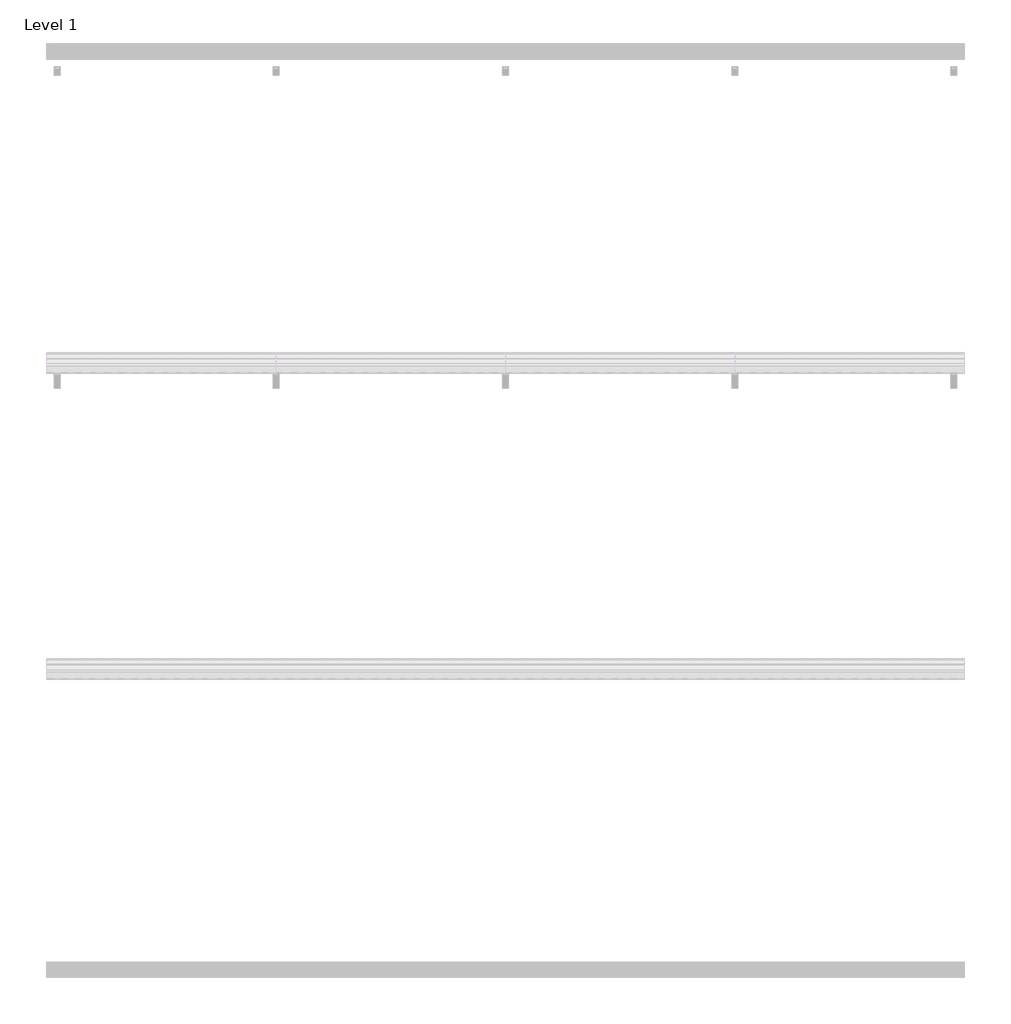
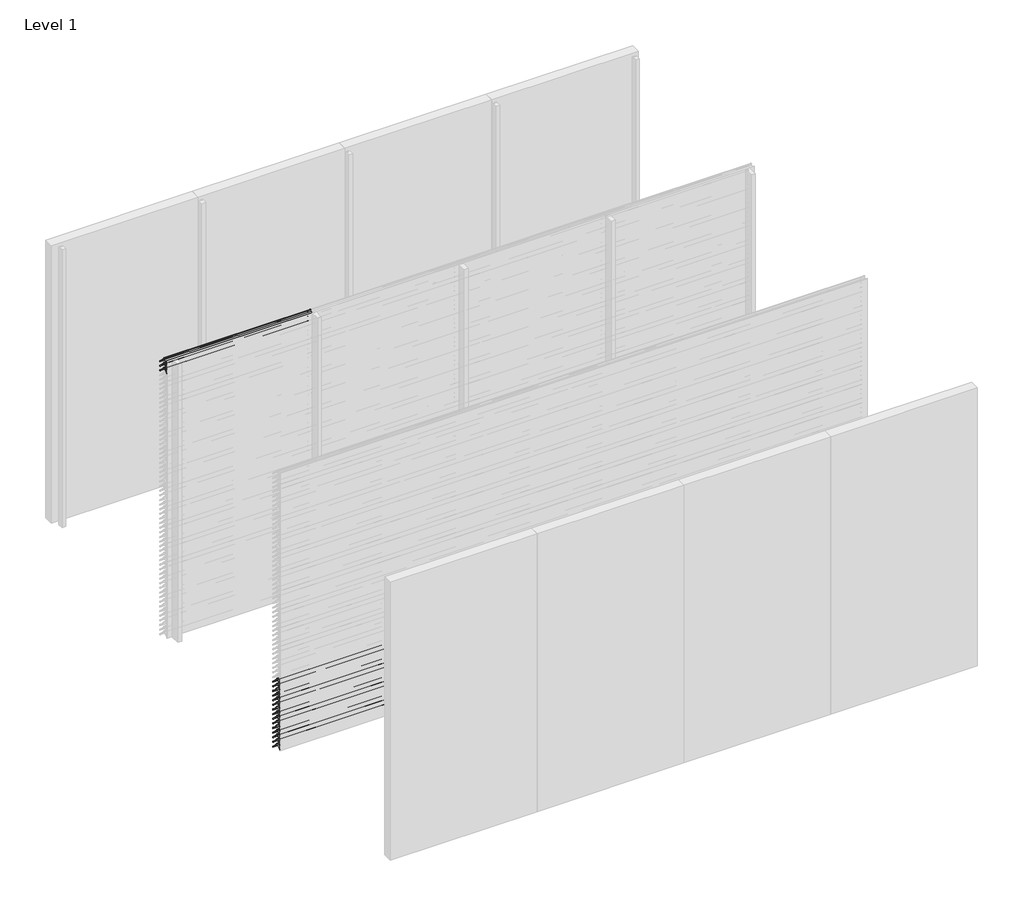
# One storey, part 57 of 173: 18 proxies.
"""IFC4 building model written with IfcOpenShell, lengths in millimetres."""

from ifc_helpers import new_model, si_unit, point, frame, frame_2d, origin, place, context, project, spatial, polyline, circle_curve, trimmed, segment, composite_curve, outline, extrude, element, save

model = new_model("IFC4")

# Units and contexts
model_context = context("Model", 3, world=origin())
ifc_project = project(units=[si_unit("LENGTHUNIT", "METRE", prefix="MILLI")], contexts=[model_context])

# Site, building, storey
site = spatial("IfcSite", under=ifc_project)
building = spatial("IfcBuilding", under=site)
storey = spatial("IfcBuildingStorey", under=building, Name="Level 1", Elevation=0.0)

# Proxies
placement = place(None, origin())
element("IfcBuildingElementProxy", 1, Name="Wall Sweeps", at=placement, inside=storey, context=model_context, shape_type="SweptSolid", body=[
    extrude(outline(composite_curve([segment(polyline([(-35998.0, 2959.1474905), (-35998.0, 2961.6227417)]), True, "CONTINUOUS"), segment(trimmed(circle_curve(frame_2d((-35951.2682172, 2916.2200208)), 65.1557103), [point((-35998.0, 2961.6227417))], [point((-35954.4014323, 2981.3003524))], False, "CARTESIAN"), True, "CONTINUOUS"), segment(polyline([(-35954.4014323, 2981.3003524), (-35934.8315836, 2981.3003524)]), True, "CONTINUOUS"), segment(trimmed(circle_curve(frame_2d((-35732.7329489, 3128.5533172)), 250.0545817), [point((-35934.8315836, 2981.3003524))], [point((-35941.4452143, 2990.8344583))], False, "CARTESIAN"), True, "CONTINUOUS"), segment(trimmed(circle_curve(frame_2d((-35953.2981792, 2985.1737835)), 13.1352966), [point((-35941.4452143, 2990.8344583))], [point((-35953.8171475, 2998.298824))], True, "CARTESIAN"), True, "CONTINUOUS"), segment(polyline([(-35953.8171475, 2998.298824), (-35953.8171475, 3000.0)]), True, "CONTINUOUS"), segment(trimmed(circle_curve(frame_2d((-35953.2981792, 2985.1737835)), 14.8352966), [point((-35953.8171475, 3000.0))], [point((-35939.9637661, 2991.6760487))], False, "CARTESIAN"), True, "CONTINUOUS"), segment(trimmed(circle_curve(frame_2d((-35732.7329489, 3128.5533172)), 248.3545817), [point((-35939.9637661, 2991.6760487))], [point((-35873.8787895, 2924.2059416))], True, "CARTESIAN"), True, "CONTINUOUS"), segment(trimmed(circle_curve(frame_2d((-35883.8147537, 2911.6649442)), 16.0), [point((-35873.8787895, 2924.2059416))], [point((-35867.8648347, 2910.4))], False, "CARTESIAN"), True, "CONTINUOUS"), segment(polyline([(-35867.8648347, 2910.4), (-35869.6712069, 2910.4)]), True, "CONTINUOUS"), segment(trimmed(circle_curve(frame_2d((-35883.8147537, 2911.6649442)), 14.2), [point((-35869.6712069, 2910.4))], [point((-35874.9518628, 2922.7594998))], True, "CARTESIAN"), True, "CONTINUOUS"), segment(trimmed(circle_curve(frame_2d((-35732.7329489, 3128.5533172)), 250.1545817), [point((-35874.9518628, 2922.7594998))], [point((-35933.7064024, 2979.6003524))], False, "CARTESIAN"), True, "CONTINUOUS"), segment(polyline([(-35933.7064024, 2979.6003524), (-35954.3602632, 2979.6003524)]), True, "CONTINUOUS"), segment(trimmed(circle_curve(frame_2d((-35951.2682172, 2916.2200208)), 63.4557103), [point((-35954.3602632, 2979.6003524))], [point((-35998.0, 2959.1474905))], True, "CARTESIAN"), True, "CONTINUOUS")], self_intersect=False)), frame((0.0, 0.0, 0.0), z_axis=(1.0, 0.0, 0.0), x_axis=(0.0, 1.0, 0.0)), (0.0, 0.0, 1.0), 1500.0),
])
element("IfcBuildingElementProxy", 2, Name="Wall Sweeps", at=placement, inside=storey, context=model_context, shape_type="SweptSolid", body=[
    extrude(outline(composite_curve([segment(polyline([(-35998.0, 2909.1474905), (-35998.0, 2911.6227417)]), True, "CONTINUOUS"), segment(trimmed(circle_curve(frame_2d((-35951.2682172, 2866.2200208)), 65.1557103), [point((-35998.0, 2911.6227417))], [point((-35954.4014323, 2931.3003524))], False, "CARTESIAN"), True, "CONTINUOUS"), segment(polyline([(-35954.4014323, 2931.3003524), (-35934.8315836, 2931.3003524)]), True, "CONTINUOUS"), segment(trimmed(circle_curve(frame_2d((-35732.7329489, 3078.5533172)), 250.0545817), [point((-35934.8315836, 2931.3003524))], [point((-35941.4452143, 2940.8344583))], False, "CARTESIAN"), True, "CONTINUOUS"), segment(trimmed(circle_curve(frame_2d((-35953.2981792, 2935.1737835)), 13.1352966), [point((-35941.4452143, 2940.8344583))], [point((-35953.8171475, 2948.298824))], True, "CARTESIAN"), True, "CONTINUOUS"), segment(polyline([(-35953.8171475, 2948.298824), (-35953.8171475, 2950.0)]), True, "CONTINUOUS"), segment(trimmed(circle_curve(frame_2d((-35953.2981792, 2935.1737835)), 14.8352966), [point((-35953.8171475, 2950.0))], [point((-35939.9637661, 2941.6760487))], False, "CARTESIAN"), True, "CONTINUOUS"), segment(trimmed(circle_curve(frame_2d((-35732.7329489, 3078.5533172)), 248.3545817), [point((-35939.9637661, 2941.6760487))], [point((-35873.8787895, 2874.2059416))], True, "CARTESIAN"), True, "CONTINUOUS"), segment(trimmed(circle_curve(frame_2d((-35883.8147537, 2861.6649442)), 16.0), [point((-35873.8787895, 2874.2059416))], [point((-35867.8648347, 2860.4))], False, "CARTESIAN"), True, "CONTINUOUS"), segment(polyline([(-35867.8648347, 2860.4), (-35869.6712069, 2860.4)]), True, "CONTINUOUS"), segment(trimmed(circle_curve(frame_2d((-35883.8147537, 2861.6649442)), 14.2), [point((-35869.6712069, 2860.4))], [point((-35874.9518628, 2872.7594998))], True, "CARTESIAN"), True, "CONTINUOUS"), segment(trimmed(circle_curve(frame_2d((-35732.7329489, 3078.5533172)), 250.1545817), [point((-35874.9518628, 2872.7594998))], [point((-35933.7064024, 2929.6003524))], False, "CARTESIAN"), True, "CONTINUOUS"), segment(polyline([(-35933.7064024, 2929.6003524), (-35954.3602632, 2929.6003524)]), True, "CONTINUOUS"), segment(trimmed(circle_curve(frame_2d((-35951.2682172, 2866.2200208)), 63.4557103), [point((-35954.3602632, 2929.6003524))], [point((-35998.0, 2909.1474905))], True, "CARTESIAN"), True, "CONTINUOUS")], self_intersect=False)), frame((0.0, 0.0, 0.0), z_axis=(1.0, 0.0, 0.0), x_axis=(0.0, 1.0, 0.0)), (0.0, 0.0, 1.0), 1500.0),
])
element("IfcBuildingElementProxy", 3, Name="Wall Sweeps", at=placement, inside=storey, context=model_context, shape_type="SweptSolid", body=[
    extrude(outline(composite_curve([segment(polyline([(-35998.0, 2859.1474905), (-35998.0, 2861.6227417)]), True, "CONTINUOUS"), segment(trimmed(circle_curve(frame_2d((-35951.2682172, 2816.2200208)), 65.1557103), [point((-35998.0, 2861.6227417))], [point((-35954.4014323, 2881.3003524))], False, "CARTESIAN"), True, "CONTINUOUS"), segment(polyline([(-35954.4014323, 2881.3003524), (-35934.8315836, 2881.3003524)]), True, "CONTINUOUS"), segment(trimmed(circle_curve(frame_2d((-35732.7329489, 3028.5533172)), 250.0545817), [point((-35934.8315836, 2881.3003524))], [point((-35941.4452143, 2890.8344583))], False, "CARTESIAN"), True, "CONTINUOUS"), segment(trimmed(circle_curve(frame_2d((-35953.2981792, 2885.1737835)), 13.1352966), [point((-35941.4452143, 2890.8344583))], [point((-35953.8171475, 2898.298824))], True, "CARTESIAN"), True, "CONTINUOUS"), segment(polyline([(-35953.8171475, 2898.298824), (-35953.8171475, 2900.0)]), True, "CONTINUOUS"), segment(trimmed(circle_curve(frame_2d((-35953.2981792, 2885.1737835)), 14.8352966), [point((-35953.8171475, 2900.0))], [point((-35939.9637661, 2891.6760487))], False, "CARTESIAN"), True, "CONTINUOUS"), segment(trimmed(circle_curve(frame_2d((-35732.7329489, 3028.5533172)), 248.3545817), [point((-35939.9637661, 2891.6760487))], [point((-35873.8787895, 2824.2059416))], True, "CARTESIAN"), True, "CONTINUOUS"), segment(trimmed(circle_curve(frame_2d((-35883.8147537, 2811.6649442)), 16.0), [point((-35873.8787895, 2824.2059416))], [point((-35867.8648347, 2810.4))], False, "CARTESIAN"), True, "CONTINUOUS"), segment(polyline([(-35867.8648347, 2810.4), (-35869.6712069, 2810.4)]), True, "CONTINUOUS"), segment(trimmed(circle_curve(frame_2d((-35883.8147537, 2811.6649442)), 14.2), [point((-35869.6712069, 2810.4))], [point((-35874.9518628, 2822.7594998))], True, "CARTESIAN"), True, "CONTINUOUS"), segment(trimmed(circle_curve(frame_2d((-35732.7329489, 3028.5533172)), 250.1545817), [point((-35874.9518628, 2822.7594998))], [point((-35933.7064024, 2879.6003524))], False, "CARTESIAN"), True, "CONTINUOUS"), segment(polyline([(-35933.7064024, 2879.6003524), (-35954.3602632, 2879.6003524)]), True, "CONTINUOUS"), segment(trimmed(circle_curve(frame_2d((-35951.2682172, 2816.2200208)), 63.4557103), [point((-35954.3602632, 2879.6003524))], [point((-35998.0, 2859.1474905))], True, "CARTESIAN"), True, "CONTINUOUS")], self_intersect=False)), frame((0.0, 0.0, 0.0), z_axis=(1.0, 0.0, 0.0), x_axis=(0.0, 1.0, 0.0)), (0.0, 0.0, 1.0), 1500.0),
])
element("IfcBuildingElementProxy", 4, Name="Wall Sweeps", at=placement, inside=storey, context=model_context, shape_type="SweptSolid", body=[
    extrude(outline(composite_curve([segment(polyline([(-37998.0, 709.1474905), (-37998.0, 711.6227417)]), True, "CONTINUOUS"), segment(trimmed(circle_curve(frame_2d((-37951.2682172, 666.2200208)), 65.1557103), [point((-37998.0, 711.6227417))], [point((-37954.4014323, 731.3003524))], False, "CARTESIAN"), True, "CONTINUOUS"), segment(polyline([(-37954.4014323, 731.3003524), (-37934.8315836, 731.3003524)]), True, "CONTINUOUS"), segment(trimmed(circle_curve(frame_2d((-37732.7329489, 878.5533172)), 250.0545817), [point((-37934.8315836, 731.3003524))], [point((-37941.4452143, 740.8344583))], False, "CARTESIAN"), True, "CONTINUOUS"), segment(trimmed(circle_curve(frame_2d((-37953.2981792, 735.1737835)), 13.1352966), [point((-37941.4452143, 740.8344583))], [point((-37953.8171475, 748.298824))], True, "CARTESIAN"), True, "CONTINUOUS"), segment(polyline([(-37953.8171475, 748.298824), (-37953.8171475, 750.0)]), True, "CONTINUOUS"), segment(trimmed(circle_curve(frame_2d((-37953.2981792, 735.1737835)), 14.8352966), [point((-37953.8171475, 750.0))], [point((-37939.9637661, 741.6760487))], False, "CARTESIAN"), True, "CONTINUOUS"), segment(trimmed(circle_curve(frame_2d((-37732.7329489, 878.5533172)), 248.3545817), [point((-37939.9637661, 741.6760487))], [point((-37873.8787895, 674.2059416))], True, "CARTESIAN"), True, "CONTINUOUS"), segment(trimmed(circle_curve(frame_2d((-37883.8147537, 661.6649442)), 16.0), [point((-37873.8787895, 674.2059416))], [point((-37867.8648347, 660.4))], False, "CARTESIAN"), True, "CONTINUOUS"), segment(polyline([(-37867.8648347, 660.4), (-37869.6712069, 660.4)]), True, "CONTINUOUS"), segment(trimmed(circle_curve(frame_2d((-37883.8147537, 661.6649442)), 14.2), [point((-37869.6712069, 660.4))], [point((-37874.9518628, 672.7594998))], True, "CARTESIAN"), True, "CONTINUOUS"), segment(trimmed(circle_curve(frame_2d((-37732.7329489, 878.5533172)), 250.1545817), [point((-37874.9518628, 672.7594998))], [point((-37933.7064024, 729.6003524))], False, "CARTESIAN"), True, "CONTINUOUS"), segment(polyline([(-37933.7064024, 729.6003524), (-37954.3602632, 729.6003524)]), True, "CONTINUOUS"), segment(trimmed(circle_curve(frame_2d((-37951.2682172, 666.2200208)), 63.4557103), [point((-37954.3602632, 729.6003524))], [point((-37998.0, 709.1474905))], True, "CARTESIAN"), True, "CONTINUOUS")], self_intersect=False)), frame((0.0, 0.0, 0.0), z_axis=(1.0, 0.0, 0.0), x_axis=(0.0, 1.0, 0.0)), (0.0, 0.0, 1.0), 6000.0),
])
element("IfcBuildingElementProxy", 5, Name="Wall Sweeps", at=placement, inside=storey, context=model_context, shape_type="SweptSolid", body=[
    extrude(outline(composite_curve([segment(polyline([(-37998.0, 659.1474905), (-37998.0, 661.6227417)]), True, "CONTINUOUS"), segment(trimmed(circle_curve(frame_2d((-37951.2682172, 616.2200208)), 65.1557103), [point((-37998.0, 661.6227417))], [point((-37954.4014323, 681.3003524))], False, "CARTESIAN"), True, "CONTINUOUS"), segment(polyline([(-37954.4014323, 681.3003524), (-37934.8315836, 681.3003524)]), True, "CONTINUOUS"), segment(trimmed(circle_curve(frame_2d((-37732.7329489, 828.5533172)), 250.0545817), [point((-37934.8315836, 681.3003524))], [point((-37941.4452143, 690.8344583))], False, "CARTESIAN"), True, "CONTINUOUS"), segment(trimmed(circle_curve(frame_2d((-37953.2981792, 685.1737835)), 13.1352966), [point((-37941.4452143, 690.8344583))], [point((-37953.8171475, 698.298824))], True, "CARTESIAN"), True, "CONTINUOUS"), segment(polyline([(-37953.8171475, 698.298824), (-37953.8171475, 700.0)]), True, "CONTINUOUS"), segment(trimmed(circle_curve(frame_2d((-37953.2981792, 685.1737835)), 14.8352966), [point((-37953.8171475, 700.0))], [point((-37939.9637661, 691.6760487))], False, "CARTESIAN"), True, "CONTINUOUS"), segment(trimmed(circle_curve(frame_2d((-37732.7329489, 828.5533172)), 248.3545817), [point((-37939.9637661, 691.6760487))], [point((-37873.8787895, 624.2059416))], True, "CARTESIAN"), True, "CONTINUOUS"), segment(trimmed(circle_curve(frame_2d((-37883.8147537, 611.6649442)), 16.0), [point((-37873.8787895, 624.2059416))], [point((-37867.8648347, 610.4))], False, "CARTESIAN"), True, "CONTINUOUS"), segment(polyline([(-37867.8648347, 610.4), (-37869.6712069, 610.4)]), True, "CONTINUOUS"), segment(trimmed(circle_curve(frame_2d((-37883.8147537, 611.6649442)), 14.2), [point((-37869.6712069, 610.4))], [point((-37874.9518628, 622.7594998))], True, "CARTESIAN"), True, "CONTINUOUS"), segment(trimmed(circle_curve(frame_2d((-37732.7329489, 828.5533172)), 250.1545817), [point((-37874.9518628, 622.7594998))], [point((-37933.7064024, 679.6003524))], False, "CARTESIAN"), True, "CONTINUOUS"), segment(polyline([(-37933.7064024, 679.6003524), (-37954.3602632, 679.6003524)]), True, "CONTINUOUS"), segment(trimmed(circle_curve(frame_2d((-37951.2682172, 616.2200208)), 63.4557103), [point((-37954.3602632, 679.6003524))], [point((-37998.0, 659.1474905))], True, "CARTESIAN"), True, "CONTINUOUS")], self_intersect=False)), frame((0.0, 0.0, 0.0), z_axis=(1.0, 0.0, 0.0), x_axis=(0.0, 1.0, 0.0)), (0.0, 0.0, 1.0), 6000.0),
])
element("IfcBuildingElementProxy", 6, Name="Wall Sweeps", at=placement, inside=storey, context=model_context, shape_type="SweptSolid", body=[
    extrude(outline(composite_curve([segment(polyline([(-37998.0, 609.1474905), (-37998.0, 611.6227417)]), True, "CONTINUOUS"), segment(trimmed(circle_curve(frame_2d((-37951.2682172, 566.2200208)), 65.1557103), [point((-37998.0, 611.6227417))], [point((-37954.4014323, 631.3003524))], False, "CARTESIAN"), True, "CONTINUOUS"), segment(polyline([(-37954.4014323, 631.3003524), (-37934.8315836, 631.3003524)]), True, "CONTINUOUS"), segment(trimmed(circle_curve(frame_2d((-37732.7329489, 778.5533172)), 250.0545817), [point((-37934.8315836, 631.3003524))], [point((-37941.4452143, 640.8344583))], False, "CARTESIAN"), True, "CONTINUOUS"), segment(trimmed(circle_curve(frame_2d((-37953.2981792, 635.1737835)), 13.1352966), [point((-37941.4452143, 640.8344583))], [point((-37953.8171475, 648.298824))], True, "CARTESIAN"), True, "CONTINUOUS"), segment(polyline([(-37953.8171475, 648.298824), (-37953.8171475, 650.0)]), True, "CONTINUOUS"), segment(trimmed(circle_curve(frame_2d((-37953.2981792, 635.1737835)), 14.8352966), [point((-37953.8171475, 650.0))], [point((-37939.9637661, 641.6760487))], False, "CARTESIAN"), True, "CONTINUOUS"), segment(trimmed(circle_curve(frame_2d((-37732.7329489, 778.5533172)), 248.3545817), [point((-37939.9637661, 641.6760487))], [point((-37873.8787895, 574.2059416))], True, "CARTESIAN"), True, "CONTINUOUS"), segment(trimmed(circle_curve(frame_2d((-37883.8147537, 561.6649442)), 16.0), [point((-37873.8787895, 574.2059416))], [point((-37867.8648347, 560.4))], False, "CARTESIAN"), True, "CONTINUOUS"), segment(polyline([(-37867.8648347, 560.4), (-37869.6712069, 560.4)]), True, "CONTINUOUS"), segment(trimmed(circle_curve(frame_2d((-37883.8147537, 561.6649442)), 14.2), [point((-37869.6712069, 560.4))], [point((-37874.9518628, 572.7594998))], True, "CARTESIAN"), True, "CONTINUOUS"), segment(trimmed(circle_curve(frame_2d((-37732.7329489, 778.5533172)), 250.1545817), [point((-37874.9518628, 572.7594998))], [point((-37933.7064024, 629.6003524))], False, "CARTESIAN"), True, "CONTINUOUS"), segment(polyline([(-37933.7064024, 629.6003524), (-37954.3602632, 629.6003524)]), True, "CONTINUOUS"), segment(trimmed(circle_curve(frame_2d((-37951.2682172, 566.2200208)), 63.4557103), [point((-37954.3602632, 629.6003524))], [point((-37998.0, 609.1474905))], True, "CARTESIAN"), True, "CONTINUOUS")], self_intersect=False)), frame((0.0, 0.0, 0.0), z_axis=(1.0, 0.0, 0.0), x_axis=(0.0, 1.0, 0.0)), (0.0, 0.0, 1.0), 6000.0),
])
element("IfcBuildingElementProxy", 7, Name="Wall Sweeps", at=placement, inside=storey, context=model_context, shape_type="SweptSolid", body=[
    extrude(outline(composite_curve([segment(polyline([(-37998.0, 559.1474905), (-37998.0, 561.6227417)]), True, "CONTINUOUS"), segment(trimmed(circle_curve(frame_2d((-37951.2682172, 516.2200208)), 65.1557103), [point((-37998.0, 561.6227417))], [point((-37954.4014323, 581.3003524))], False, "CARTESIAN"), True, "CONTINUOUS"), segment(polyline([(-37954.4014323, 581.3003524), (-37934.8315836, 581.3003524)]), True, "CONTINUOUS"), segment(trimmed(circle_curve(frame_2d((-37732.7329489, 728.5533172)), 250.0545817), [point((-37934.8315836, 581.3003524))], [point((-37941.4452143, 590.8344583))], False, "CARTESIAN"), True, "CONTINUOUS"), segment(trimmed(circle_curve(frame_2d((-37953.2981792, 585.1737835)), 13.1352966), [point((-37941.4452143, 590.8344583))], [point((-37953.8171475, 598.298824))], True, "CARTESIAN"), True, "CONTINUOUS"), segment(polyline([(-37953.8171475, 598.298824), (-37953.8171475, 600.0)]), True, "CONTINUOUS"), segment(trimmed(circle_curve(frame_2d((-37953.2981792, 585.1737835)), 14.8352966), [point((-37953.8171475, 600.0))], [point((-37939.9637661, 591.6760487))], False, "CARTESIAN"), True, "CONTINUOUS"), segment(trimmed(circle_curve(frame_2d((-37732.7329489, 728.5533172)), 248.3545817), [point((-37939.9637661, 591.6760487))], [point((-37873.8787895, 524.2059416))], True, "CARTESIAN"), True, "CONTINUOUS"), segment(trimmed(circle_curve(frame_2d((-37883.8147537, 511.6649442)), 16.0), [point((-37873.8787895, 524.2059416))], [point((-37867.8648347, 510.4))], False, "CARTESIAN"), True, "CONTINUOUS"), segment(polyline([(-37867.8648347, 510.4), (-37869.6712069, 510.4)]), True, "CONTINUOUS"), segment(trimmed(circle_curve(frame_2d((-37883.8147537, 511.6649442)), 14.2), [point((-37869.6712069, 510.4))], [point((-37874.9518628, 522.7594998))], True, "CARTESIAN"), True, "CONTINUOUS"), segment(trimmed(circle_curve(frame_2d((-37732.7329489, 728.5533172)), 250.1545817), [point((-37874.9518628, 522.7594998))], [point((-37933.7064024, 579.6003524))], False, "CARTESIAN"), True, "CONTINUOUS"), segment(polyline([(-37933.7064024, 579.6003524), (-37954.3602632, 579.6003524)]), True, "CONTINUOUS"), segment(trimmed(circle_curve(frame_2d((-37951.2682172, 516.2200208)), 63.4557103), [point((-37954.3602632, 579.6003524))], [point((-37998.0, 559.1474905))], True, "CARTESIAN"), True, "CONTINUOUS")], self_intersect=False)), frame((0.0, 0.0, 0.0), z_axis=(1.0, 0.0, 0.0), x_axis=(0.0, 1.0, 0.0)), (0.0, 0.0, 1.0), 6000.0),
])
element("IfcBuildingElementProxy", 8, Name="Wall Sweeps", at=placement, inside=storey, context=model_context, shape_type="SweptSolid", body=[
    extrude(outline(composite_curve([segment(polyline([(-37998.0, 509.1474905), (-37998.0, 511.6227417)]), True, "CONTINUOUS"), segment(trimmed(circle_curve(frame_2d((-37951.2682172, 466.2200208)), 65.1557103), [point((-37998.0, 511.6227417))], [point((-37954.4014323, 531.3003524))], False, "CARTESIAN"), True, "CONTINUOUS"), segment(polyline([(-37954.4014323, 531.3003524), (-37934.8315836, 531.3003524)]), True, "CONTINUOUS"), segment(trimmed(circle_curve(frame_2d((-37732.7329489, 678.5533172)), 250.0545817), [point((-37934.8315836, 531.3003524))], [point((-37941.4452143, 540.8344583))], False, "CARTESIAN"), True, "CONTINUOUS"), segment(trimmed(circle_curve(frame_2d((-37953.2981792, 535.1737835)), 13.1352966), [point((-37941.4452143, 540.8344583))], [point((-37953.8171475, 548.298824))], True, "CARTESIAN"), True, "CONTINUOUS"), segment(polyline([(-37953.8171475, 548.298824), (-37953.8171475, 550.0)]), True, "CONTINUOUS"), segment(trimmed(circle_curve(frame_2d((-37953.2981792, 535.1737835)), 14.8352966), [point((-37953.8171475, 550.0))], [point((-37939.9637661, 541.6760487))], False, "CARTESIAN"), True, "CONTINUOUS"), segment(trimmed(circle_curve(frame_2d((-37732.7329489, 678.5533172)), 248.3545817), [point((-37939.9637661, 541.6760487))], [point((-37873.8787895, 474.2059416))], True, "CARTESIAN"), True, "CONTINUOUS"), segment(trimmed(circle_curve(frame_2d((-37883.8147537, 461.6649442)), 16.0), [point((-37873.8787895, 474.2059416))], [point((-37867.8648347, 460.4))], False, "CARTESIAN"), True, "CONTINUOUS"), segment(polyline([(-37867.8648347, 460.4), (-37869.6712069, 460.4)]), True, "CONTINUOUS"), segment(trimmed(circle_curve(frame_2d((-37883.8147537, 461.6649442)), 14.2), [point((-37869.6712069, 460.4))], [point((-37874.9518628, 472.7594998))], True, "CARTESIAN"), True, "CONTINUOUS"), segment(trimmed(circle_curve(frame_2d((-37732.7329489, 678.5533172)), 250.1545817), [point((-37874.9518628, 472.7594998))], [point((-37933.7064024, 529.6003524))], False, "CARTESIAN"), True, "CONTINUOUS"), segment(polyline([(-37933.7064024, 529.6003524), (-37954.3602632, 529.6003524)]), True, "CONTINUOUS"), segment(trimmed(circle_curve(frame_2d((-37951.2682172, 466.2200208)), 63.4557103), [point((-37954.3602632, 529.6003524))], [point((-37998.0, 509.1474905))], True, "CARTESIAN"), True, "CONTINUOUS")], self_intersect=False)), frame((0.0, 0.0, 0.0), z_axis=(1.0, 0.0, 0.0), x_axis=(0.0, 1.0, 0.0)), (0.0, 0.0, 1.0), 6000.0),
])
element("IfcBuildingElementProxy", 9, Name="Wall Sweeps", at=placement, inside=storey, context=model_context, shape_type="SweptSolid", body=[
    extrude(outline(composite_curve([segment(polyline([(-37998.0, 459.1474905), (-37998.0, 461.6227417)]), True, "CONTINUOUS"), segment(trimmed(circle_curve(frame_2d((-37951.2682172, 416.2200208)), 65.1557103), [point((-37998.0, 461.6227417))], [point((-37954.4014323, 481.3003524))], False, "CARTESIAN"), True, "CONTINUOUS"), segment(polyline([(-37954.4014323, 481.3003524), (-37934.8315836, 481.3003524)]), True, "CONTINUOUS"), segment(trimmed(circle_curve(frame_2d((-37732.7329489, 628.5533172)), 250.0545817), [point((-37934.8315836, 481.3003524))], [point((-37941.4452143, 490.8344583))], False, "CARTESIAN"), True, "CONTINUOUS"), segment(trimmed(circle_curve(frame_2d((-37953.2981792, 485.1737835)), 13.1352966), [point((-37941.4452143, 490.8344583))], [point((-37953.8171475, 498.298824))], True, "CARTESIAN"), True, "CONTINUOUS"), segment(polyline([(-37953.8171475, 498.298824), (-37953.8171475, 500.0)]), True, "CONTINUOUS"), segment(trimmed(circle_curve(frame_2d((-37953.2981792, 485.1737835)), 14.8352966), [point((-37953.8171475, 500.0))], [point((-37939.9637661, 491.6760487))], False, "CARTESIAN"), True, "CONTINUOUS"), segment(trimmed(circle_curve(frame_2d((-37732.7329489, 628.5533172)), 248.3545817), [point((-37939.9637661, 491.6760487))], [point((-37873.8787895, 424.2059416))], True, "CARTESIAN"), True, "CONTINUOUS"), segment(trimmed(circle_curve(frame_2d((-37883.8147537, 411.6649442)), 16.0), [point((-37873.8787895, 424.2059416))], [point((-37867.8648347, 410.4))], False, "CARTESIAN"), True, "CONTINUOUS"), segment(polyline([(-37867.8648347, 410.4), (-37869.6712069, 410.4)]), True, "CONTINUOUS"), segment(trimmed(circle_curve(frame_2d((-37883.8147537, 411.6649442)), 14.2), [point((-37869.6712069, 410.4))], [point((-37874.9518628, 422.7594998))], True, "CARTESIAN"), True, "CONTINUOUS"), segment(trimmed(circle_curve(frame_2d((-37732.7329489, 628.5533172)), 250.1545817), [point((-37874.9518628, 422.7594998))], [point((-37933.7064024, 479.6003524))], False, "CARTESIAN"), True, "CONTINUOUS"), segment(polyline([(-37933.7064024, 479.6003524), (-37954.3602632, 479.6003524)]), True, "CONTINUOUS"), segment(trimmed(circle_curve(frame_2d((-37951.2682172, 416.2200208)), 63.4557103), [point((-37954.3602632, 479.6003524))], [point((-37998.0, 459.1474905))], True, "CARTESIAN"), True, "CONTINUOUS")], self_intersect=False)), frame((0.0, 0.0, 0.0), z_axis=(1.0, 0.0, 0.0), x_axis=(0.0, 1.0, 0.0)), (0.0, 0.0, 1.0), 6000.0),
])
element("IfcBuildingElementProxy", 10, Name="Wall Sweeps", at=placement, inside=storey, context=model_context, shape_type="SweptSolid", body=[
    extrude(outline(composite_curve([segment(polyline([(-37998.0, 409.1474905), (-37998.0, 411.6227417)]), True, "CONTINUOUS"), segment(trimmed(circle_curve(frame_2d((-37951.2682172, 366.2200208)), 65.1557103), [point((-37998.0, 411.6227417))], [point((-37954.4014323, 431.3003524))], False, "CARTESIAN"), True, "CONTINUOUS"), segment(polyline([(-37954.4014323, 431.3003524), (-37934.8315836, 431.3003524)]), True, "CONTINUOUS"), segment(trimmed(circle_curve(frame_2d((-37732.7329489, 578.5533172)), 250.0545817), [point((-37934.8315836, 431.3003524))], [point((-37941.4452143, 440.8344583))], False, "CARTESIAN"), True, "CONTINUOUS"), segment(trimmed(circle_curve(frame_2d((-37953.2981792, 435.1737835)), 13.1352966), [point((-37941.4452143, 440.8344583))], [point((-37953.8171475, 448.298824))], True, "CARTESIAN"), True, "CONTINUOUS"), segment(polyline([(-37953.8171475, 448.298824), (-37953.8171475, 450.0)]), True, "CONTINUOUS"), segment(trimmed(circle_curve(frame_2d((-37953.2981792, 435.1737835)), 14.8352966), [point((-37953.8171475, 450.0))], [point((-37939.9637661, 441.6760487))], False, "CARTESIAN"), True, "CONTINUOUS"), segment(trimmed(circle_curve(frame_2d((-37732.7329489, 578.5533172)), 248.3545817), [point((-37939.9637661, 441.6760487))], [point((-37873.8787895, 374.2059416))], True, "CARTESIAN"), True, "CONTINUOUS"), segment(trimmed(circle_curve(frame_2d((-37883.8147537, 361.6649442)), 16.0), [point((-37873.8787895, 374.2059416))], [point((-37867.8648347, 360.4))], False, "CARTESIAN"), True, "CONTINUOUS"), segment(polyline([(-37867.8648347, 360.4), (-37869.6712069, 360.4)]), True, "CONTINUOUS"), segment(trimmed(circle_curve(frame_2d((-37883.8147537, 361.6649442)), 14.2), [point((-37869.6712069, 360.4))], [point((-37874.9518628, 372.7594998))], True, "CARTESIAN"), True, "CONTINUOUS"), segment(trimmed(circle_curve(frame_2d((-37732.7329489, 578.5533172)), 250.1545817), [point((-37874.9518628, 372.7594998))], [point((-37933.7064024, 429.6003524))], False, "CARTESIAN"), True, "CONTINUOUS"), segment(polyline([(-37933.7064024, 429.6003524), (-37954.3602632, 429.6003524)]), True, "CONTINUOUS"), segment(trimmed(circle_curve(frame_2d((-37951.2682172, 366.2200208)), 63.4557103), [point((-37954.3602632, 429.6003524))], [point((-37998.0, 409.1474905))], True, "CARTESIAN"), True, "CONTINUOUS")], self_intersect=False)), frame((0.0, 0.0, 0.0), z_axis=(1.0, 0.0, 0.0), x_axis=(0.0, 1.0, 0.0)), (0.0, 0.0, 1.0), 6000.0),
])
element("IfcBuildingElementProxy", 11, Name="Wall Sweeps", at=placement, inside=storey, context=model_context, shape_type="SweptSolid", body=[
    extrude(outline(composite_curve([segment(polyline([(-37998.0, 359.1474905), (-37998.0, 361.6227417)]), True, "CONTINUOUS"), segment(trimmed(circle_curve(frame_2d((-37951.2682172, 316.2200208)), 65.1557103), [point((-37998.0, 361.6227417))], [point((-37954.4014323, 381.3003524))], False, "CARTESIAN"), True, "CONTINUOUS"), segment(polyline([(-37954.4014323, 381.3003524), (-37934.8315836, 381.3003524)]), True, "CONTINUOUS"), segment(trimmed(circle_curve(frame_2d((-37732.7329489, 528.5533172)), 250.0545817), [point((-37934.8315836, 381.3003524))], [point((-37941.4452143, 390.8344583))], False, "CARTESIAN"), True, "CONTINUOUS"), segment(trimmed(circle_curve(frame_2d((-37953.2981792, 385.1737835)), 13.1352966), [point((-37941.4452143, 390.8344583))], [point((-37953.8171475, 398.298824))], True, "CARTESIAN"), True, "CONTINUOUS"), segment(polyline([(-37953.8171475, 398.298824), (-37953.8171475, 400.0)]), True, "CONTINUOUS"), segment(trimmed(circle_curve(frame_2d((-37953.2981792, 385.1737835)), 14.8352966), [point((-37953.8171475, 400.0))], [point((-37939.9637661, 391.6760487))], False, "CARTESIAN"), True, "CONTINUOUS"), segment(trimmed(circle_curve(frame_2d((-37732.7329489, 528.5533172)), 248.3545817), [point((-37939.9637661, 391.6760487))], [point((-37873.8787895, 324.2059416))], True, "CARTESIAN"), True, "CONTINUOUS"), segment(trimmed(circle_curve(frame_2d((-37883.8147537, 311.6649442)), 16.0), [point((-37873.8787895, 324.2059416))], [point((-37867.8648347, 310.4))], False, "CARTESIAN"), True, "CONTINUOUS"), segment(polyline([(-37867.8648347, 310.4), (-37869.6712069, 310.4)]), True, "CONTINUOUS"), segment(trimmed(circle_curve(frame_2d((-37883.8147537, 311.6649442)), 14.2), [point((-37869.6712069, 310.4))], [point((-37874.9518628, 322.7594998))], True, "CARTESIAN"), True, "CONTINUOUS"), segment(trimmed(circle_curve(frame_2d((-37732.7329489, 528.5533172)), 250.1545817), [point((-37874.9518628, 322.7594998))], [point((-37933.7064024, 379.6003524))], False, "CARTESIAN"), True, "CONTINUOUS"), segment(polyline([(-37933.7064024, 379.6003524), (-37954.3602632, 379.6003524)]), True, "CONTINUOUS"), segment(trimmed(circle_curve(frame_2d((-37951.2682172, 316.2200208)), 63.4557103), [point((-37954.3602632, 379.6003524))], [point((-37998.0, 359.1474905))], True, "CARTESIAN"), True, "CONTINUOUS")], self_intersect=False)), frame((0.0, 0.0, 0.0), z_axis=(1.0, 0.0, 0.0), x_axis=(0.0, 1.0, 0.0)), (0.0, 0.0, 1.0), 6000.0),
])
element("IfcBuildingElementProxy", 12, Name="Wall Sweeps", at=placement, inside=storey, context=model_context, shape_type="SweptSolid", body=[
    extrude(outline(composite_curve([segment(polyline([(-37998.0, 309.1474905), (-37998.0, 311.6227417)]), True, "CONTINUOUS"), segment(trimmed(circle_curve(frame_2d((-37951.2682172, 266.2200208)), 65.1557103), [point((-37998.0, 311.6227417))], [point((-37954.4014323, 331.3003524))], False, "CARTESIAN"), True, "CONTINUOUS"), segment(polyline([(-37954.4014323, 331.3003524), (-37934.8315836, 331.3003524)]), True, "CONTINUOUS"), segment(trimmed(circle_curve(frame_2d((-37732.7329489, 478.5533172)), 250.0545817), [point((-37934.8315836, 331.3003524))], [point((-37941.4452143, 340.8344583))], False, "CARTESIAN"), True, "CONTINUOUS"), segment(trimmed(circle_curve(frame_2d((-37953.2981792, 335.1737835)), 13.1352966), [point((-37941.4452143, 340.8344583))], [point((-37953.8171475, 348.298824))], True, "CARTESIAN"), True, "CONTINUOUS"), segment(polyline([(-37953.8171475, 348.298824), (-37953.8171475, 350.0)]), True, "CONTINUOUS"), segment(trimmed(circle_curve(frame_2d((-37953.2981792, 335.1737835)), 14.8352966), [point((-37953.8171475, 350.0))], [point((-37939.9637661, 341.6760487))], False, "CARTESIAN"), True, "CONTINUOUS"), segment(trimmed(circle_curve(frame_2d((-37732.7329489, 478.5533172)), 248.3545817), [point((-37939.9637661, 341.6760487))], [point((-37873.8787895, 274.2059416))], True, "CARTESIAN"), True, "CONTINUOUS"), segment(trimmed(circle_curve(frame_2d((-37883.8147537, 261.6649442)), 16.0), [point((-37873.8787895, 274.2059416))], [point((-37867.8648347, 260.4))], False, "CARTESIAN"), True, "CONTINUOUS"), segment(polyline([(-37867.8648347, 260.4), (-37869.6712069, 260.4)]), True, "CONTINUOUS"), segment(trimmed(circle_curve(frame_2d((-37883.8147537, 261.6649442)), 14.2), [point((-37869.6712069, 260.4))], [point((-37874.9518628, 272.7594998))], True, "CARTESIAN"), True, "CONTINUOUS"), segment(trimmed(circle_curve(frame_2d((-37732.7329489, 478.5533172)), 250.1545817), [point((-37874.9518628, 272.7594998))], [point((-37933.7064024, 329.6003524))], False, "CARTESIAN"), True, "CONTINUOUS"), segment(polyline([(-37933.7064024, 329.6003524), (-37954.3602632, 329.6003524)]), True, "CONTINUOUS"), segment(trimmed(circle_curve(frame_2d((-37951.2682172, 266.2200208)), 63.4557103), [point((-37954.3602632, 329.6003524))], [point((-37998.0, 309.1474905))], True, "CARTESIAN"), True, "CONTINUOUS")], self_intersect=False)), frame((0.0, 0.0, 0.0), z_axis=(1.0, 0.0, 0.0), x_axis=(0.0, 1.0, 0.0)), (0.0, 0.0, 1.0), 6000.0),
])
element("IfcBuildingElementProxy", 13, Name="Wall Sweeps", at=placement, inside=storey, context=model_context, shape_type="SweptSolid", body=[
    extrude(outline(composite_curve([segment(polyline([(-37998.0, 259.1474905), (-37998.0, 261.6227417)]), True, "CONTINUOUS"), segment(trimmed(circle_curve(frame_2d((-37951.2682172, 216.2200208)), 65.1557103), [point((-37998.0, 261.6227417))], [point((-37954.4014323, 281.3003524))], False, "CARTESIAN"), True, "CONTINUOUS"), segment(polyline([(-37954.4014323, 281.3003524), (-37934.8315836, 281.3003524)]), True, "CONTINUOUS"), segment(trimmed(circle_curve(frame_2d((-37732.7329489, 428.5533172)), 250.0545817), [point((-37934.8315836, 281.3003524))], [point((-37941.4452143, 290.8344583))], False, "CARTESIAN"), True, "CONTINUOUS"), segment(trimmed(circle_curve(frame_2d((-37953.2981792, 285.1737835)), 13.1352966), [point((-37941.4452143, 290.8344583))], [point((-37953.8171475, 298.298824))], True, "CARTESIAN"), True, "CONTINUOUS"), segment(polyline([(-37953.8171475, 298.298824), (-37953.8171475, 300.0)]), True, "CONTINUOUS"), segment(trimmed(circle_curve(frame_2d((-37953.2981792, 285.1737835)), 14.8352966), [point((-37953.8171475, 300.0))], [point((-37939.9637661, 291.6760487))], False, "CARTESIAN"), True, "CONTINUOUS"), segment(trimmed(circle_curve(frame_2d((-37732.7329489, 428.5533172)), 248.3545817), [point((-37939.9637661, 291.6760487))], [point((-37873.8787895, 224.2059416))], True, "CARTESIAN"), True, "CONTINUOUS"), segment(trimmed(circle_curve(frame_2d((-37883.8147537, 211.6649442)), 16.0), [point((-37873.8787895, 224.2059416))], [point((-37867.8648347, 210.4))], False, "CARTESIAN"), True, "CONTINUOUS"), segment(polyline([(-37867.8648347, 210.4), (-37869.6712069, 210.4)]), True, "CONTINUOUS"), segment(trimmed(circle_curve(frame_2d((-37883.8147537, 211.6649442)), 14.2), [point((-37869.6712069, 210.4))], [point((-37874.9518628, 222.7594998))], True, "CARTESIAN"), True, "CONTINUOUS"), segment(trimmed(circle_curve(frame_2d((-37732.7329489, 428.5533172)), 250.1545817), [point((-37874.9518628, 222.7594998))], [point((-37933.7064024, 279.6003524))], False, "CARTESIAN"), True, "CONTINUOUS"), segment(polyline([(-37933.7064024, 279.6003524), (-37954.3602632, 279.6003524)]), True, "CONTINUOUS"), segment(trimmed(circle_curve(frame_2d((-37951.2682172, 216.2200208)), 63.4557103), [point((-37954.3602632, 279.6003524))], [point((-37998.0, 259.1474905))], True, "CARTESIAN"), True, "CONTINUOUS")], self_intersect=False)), frame((0.0, 0.0, 0.0), z_axis=(1.0, 0.0, 0.0), x_axis=(0.0, 1.0, 0.0)), (0.0, 0.0, 1.0), 6000.0),
])
element("IfcBuildingElementProxy", 14, Name="Wall Sweeps", at=placement, inside=storey, context=model_context, shape_type="SweptSolid", body=[
    extrude(outline(composite_curve([segment(polyline([(-37998.0, 209.1474905), (-37998.0, 211.6227417)]), True, "CONTINUOUS"), segment(trimmed(circle_curve(frame_2d((-37951.2682172, 166.2200208)), 65.1557103), [point((-37998.0, 211.6227417))], [point((-37954.4014323, 231.3003524))], False, "CARTESIAN"), True, "CONTINUOUS"), segment(polyline([(-37954.4014323, 231.3003524), (-37934.8315836, 231.3003524)]), True, "CONTINUOUS"), segment(trimmed(circle_curve(frame_2d((-37732.7329489, 378.5533172)), 250.0545817), [point((-37934.8315836, 231.3003524))], [point((-37941.4452143, 240.8344583))], False, "CARTESIAN"), True, "CONTINUOUS"), segment(trimmed(circle_curve(frame_2d((-37953.2981792, 235.1737835)), 13.1352966), [point((-37941.4452143, 240.8344583))], [point((-37953.8171475, 248.298824))], True, "CARTESIAN"), True, "CONTINUOUS"), segment(polyline([(-37953.8171475, 248.298824), (-37953.8171475, 250.0)]), True, "CONTINUOUS"), segment(trimmed(circle_curve(frame_2d((-37953.2981792, 235.1737835)), 14.8352966), [point((-37953.8171475, 250.0))], [point((-37939.9637661, 241.6760487))], False, "CARTESIAN"), True, "CONTINUOUS"), segment(trimmed(circle_curve(frame_2d((-37732.7329489, 378.5533172)), 248.3545817), [point((-37939.9637661, 241.6760487))], [point((-37873.8787895, 174.2059416))], True, "CARTESIAN"), True, "CONTINUOUS"), segment(trimmed(circle_curve(frame_2d((-37883.8147537, 161.6649442)), 16.0), [point((-37873.8787895, 174.2059416))], [point((-37867.8648347, 160.4))], False, "CARTESIAN"), True, "CONTINUOUS"), segment(polyline([(-37867.8648347, 160.4), (-37869.6712069, 160.4)]), True, "CONTINUOUS"), segment(trimmed(circle_curve(frame_2d((-37883.8147537, 161.6649442)), 14.2), [point((-37869.6712069, 160.4))], [point((-37874.9518628, 172.7594998))], True, "CARTESIAN"), True, "CONTINUOUS"), segment(trimmed(circle_curve(frame_2d((-37732.7329489, 378.5533172)), 250.1545817), [point((-37874.9518628, 172.7594998))], [point((-37933.7064024, 229.6003524))], False, "CARTESIAN"), True, "CONTINUOUS"), segment(polyline([(-37933.7064024, 229.6003524), (-37954.3602632, 229.6003524)]), True, "CONTINUOUS"), segment(trimmed(circle_curve(frame_2d((-37951.2682172, 166.2200208)), 63.4557103), [point((-37954.3602632, 229.6003524))], [point((-37998.0, 209.1474905))], True, "CARTESIAN"), True, "CONTINUOUS")], self_intersect=False)), frame((0.0, 0.0, 0.0), z_axis=(1.0, 0.0, 0.0), x_axis=(0.0, 1.0, 0.0)), (0.0, 0.0, 1.0), 6000.0),
])
element("IfcBuildingElementProxy", 15, Name="Wall Sweeps", at=placement, inside=storey, context=model_context, shape_type="SweptSolid", body=[
    extrude(outline(composite_curve([segment(polyline([(-37998.0, 159.1474905), (-37998.0, 161.6227417)]), True, "CONTINUOUS"), segment(trimmed(circle_curve(frame_2d((-37951.2682172, 116.2200208)), 65.1557103), [point((-37998.0, 161.6227417))], [point((-37954.4014323, 181.3003524))], False, "CARTESIAN"), True, "CONTINUOUS"), segment(polyline([(-37954.4014323, 181.3003524), (-37934.8315836, 181.3003524)]), True, "CONTINUOUS"), segment(trimmed(circle_curve(frame_2d((-37732.7329489, 328.5533172)), 250.0545817), [point((-37934.8315836, 181.3003524))], [point((-37941.4452143, 190.8344583))], False, "CARTESIAN"), True, "CONTINUOUS"), segment(trimmed(circle_curve(frame_2d((-37953.2981792, 185.1737835)), 13.1352966), [point((-37941.4452143, 190.8344583))], [point((-37953.8171475, 198.298824))], True, "CARTESIAN"), True, "CONTINUOUS"), segment(polyline([(-37953.8171475, 198.298824), (-37953.8171475, 200.0)]), True, "CONTINUOUS"), segment(trimmed(circle_curve(frame_2d((-37953.2981792, 185.1737835)), 14.8352966), [point((-37953.8171475, 200.0))], [point((-37939.9637661, 191.6760487))], False, "CARTESIAN"), True, "CONTINUOUS"), segment(trimmed(circle_curve(frame_2d((-37732.7329489, 328.5533172)), 248.3545817), [point((-37939.9637661, 191.6760487))], [point((-37873.8787895, 124.2059416))], True, "CARTESIAN"), True, "CONTINUOUS"), segment(trimmed(circle_curve(frame_2d((-37883.8147537, 111.6649442)), 16.0), [point((-37873.8787895, 124.2059416))], [point((-37867.8648347, 110.4))], False, "CARTESIAN"), True, "CONTINUOUS"), segment(polyline([(-37867.8648347, 110.4), (-37869.6712069, 110.4)]), True, "CONTINUOUS"), segment(trimmed(circle_curve(frame_2d((-37883.8147537, 111.6649442)), 14.2), [point((-37869.6712069, 110.4))], [point((-37874.9518628, 122.7594998))], True, "CARTESIAN"), True, "CONTINUOUS"), segment(trimmed(circle_curve(frame_2d((-37732.7329489, 328.5533172)), 250.1545817), [point((-37874.9518628, 122.7594998))], [point((-37933.7064024, 179.6003524))], False, "CARTESIAN"), True, "CONTINUOUS"), segment(polyline([(-37933.7064024, 179.6003524), (-37954.3602632, 179.6003524)]), True, "CONTINUOUS"), segment(trimmed(circle_curve(frame_2d((-37951.2682172, 116.2200208)), 63.4557103), [point((-37954.3602632, 179.6003524))], [point((-37998.0, 159.1474905))], True, "CARTESIAN"), True, "CONTINUOUS")], self_intersect=False)), frame((0.0, 0.0, 0.0), z_axis=(1.0, 0.0, 0.0), x_axis=(0.0, 1.0, 0.0)), (0.0, 0.0, 1.0), 6000.0),
])
element("IfcBuildingElementProxy", 16, Name="Wall Sweeps", at=placement, inside=storey, context=model_context, shape_type="SweptSolid", body=[
    extrude(outline(composite_curve([segment(polyline([(-37998.0, 109.1474905), (-37998.0, 111.6227417)]), True, "CONTINUOUS"), segment(trimmed(circle_curve(frame_2d((-37951.2682172, 66.2200208)), 65.1557103), [point((-37998.0, 111.6227417))], [point((-37954.4014323, 131.3003524))], False, "CARTESIAN"), True, "CONTINUOUS"), segment(polyline([(-37954.4014323, 131.3003524), (-37934.8315836, 131.3003524)]), True, "CONTINUOUS"), segment(trimmed(circle_curve(frame_2d((-37732.7329489, 278.5533172)), 250.0545817), [point((-37934.8315836, 131.3003524))], [point((-37941.4452143, 140.8344583))], False, "CARTESIAN"), True, "CONTINUOUS"), segment(trimmed(circle_curve(frame_2d((-37953.2981792, 135.1737835)), 13.1352966), [point((-37941.4452143, 140.8344583))], [point((-37953.8171475, 148.298824))], True, "CARTESIAN"), True, "CONTINUOUS"), segment(polyline([(-37953.8171475, 148.298824), (-37953.8171475, 150.0)]), True, "CONTINUOUS"), segment(trimmed(circle_curve(frame_2d((-37953.2981792, 135.1737835)), 14.8352966), [point((-37953.8171475, 150.0))], [point((-37939.9637661, 141.6760487))], False, "CARTESIAN"), True, "CONTINUOUS"), segment(trimmed(circle_curve(frame_2d((-37732.7329489, 278.5533172)), 248.3545817), [point((-37939.9637661, 141.6760487))], [point((-37873.8787895, 74.2059416))], True, "CARTESIAN"), True, "CONTINUOUS"), segment(trimmed(circle_curve(frame_2d((-37883.8147537, 61.6649442)), 16.0), [point((-37873.8787895, 74.2059416))], [point((-37867.8648347, 60.4))], False, "CARTESIAN"), True, "CONTINUOUS"), segment(polyline([(-37867.8648347, 60.4), (-37869.6712069, 60.4)]), True, "CONTINUOUS"), segment(trimmed(circle_curve(frame_2d((-37883.8147537, 61.6649442)), 14.2), [point((-37869.6712069, 60.4))], [point((-37874.9518628, 72.7594998))], True, "CARTESIAN"), True, "CONTINUOUS"), segment(trimmed(circle_curve(frame_2d((-37732.7329489, 278.5533172)), 250.1545817), [point((-37874.9518628, 72.7594998))], [point((-37933.7064024, 129.6003524))], False, "CARTESIAN"), True, "CONTINUOUS"), segment(polyline([(-37933.7064024, 129.6003524), (-37954.3602632, 129.6003524)]), True, "CONTINUOUS"), segment(trimmed(circle_curve(frame_2d((-37951.2682172, 66.2200208)), 63.4557103), [point((-37954.3602632, 129.6003524))], [point((-37998.0, 109.1474905))], True, "CARTESIAN"), True, "CONTINUOUS")], self_intersect=False)), frame((0.0, 0.0, 0.0), z_axis=(1.0, 0.0, 0.0), x_axis=(0.0, 1.0, 0.0)), (0.0, 0.0, 1.0), 6000.0),
])
element("IfcBuildingElementProxy", 17, Name="Wall Sweeps", at=placement, inside=storey, context=model_context, shape_type="SweptSolid", body=[
    extrude(outline(composite_curve([segment(polyline([(-37998.0, 59.1474905), (-37998.0, 61.6227417)]), True, "CONTINUOUS"), segment(trimmed(circle_curve(frame_2d((-37951.2682172, 16.2200208)), 65.1557103), [point((-37998.0, 61.6227417))], [point((-37954.4014323, 81.3003524))], False, "CARTESIAN"), True, "CONTINUOUS"), segment(polyline([(-37954.4014323, 81.3003524), (-37934.8315836, 81.3003524)]), True, "CONTINUOUS"), segment(trimmed(circle_curve(frame_2d((-37732.7329489, 228.5533172)), 250.0545817), [point((-37934.8315836, 81.3003524))], [point((-37941.4452143, 90.8344583))], False, "CARTESIAN"), True, "CONTINUOUS"), segment(trimmed(circle_curve(frame_2d((-37953.2981792, 85.1737835)), 13.1352966), [point((-37941.4452143, 90.8344583))], [point((-37953.8171475, 98.298824))], True, "CARTESIAN"), True, "CONTINUOUS"), segment(polyline([(-37953.8171475, 98.298824), (-37953.8171475, 100.0)]), True, "CONTINUOUS"), segment(trimmed(circle_curve(frame_2d((-37953.2981792, 85.1737835)), 14.8352966), [point((-37953.8171475, 100.0))], [point((-37939.9637661, 91.6760487))], False, "CARTESIAN"), True, "CONTINUOUS"), segment(trimmed(circle_curve(frame_2d((-37732.7329489, 228.5533172)), 248.3545817), [point((-37939.9637661, 91.6760487))], [point((-37873.8787895, 24.2059416))], True, "CARTESIAN"), True, "CONTINUOUS"), segment(trimmed(circle_curve(frame_2d((-37883.8147537, 11.6649442)), 16.0), [point((-37873.8787895, 24.2059416))], [point((-37867.8648347, 10.4))], False, "CARTESIAN"), True, "CONTINUOUS"), segment(polyline([(-37867.8648347, 10.4), (-37869.6712069, 10.4)]), True, "CONTINUOUS"), segment(trimmed(circle_curve(frame_2d((-37883.8147537, 11.6649442)), 14.2), [point((-37869.6712069, 10.4))], [point((-37874.9518628, 22.7594998))], True, "CARTESIAN"), True, "CONTINUOUS"), segment(trimmed(circle_curve(frame_2d((-37732.7329489, 228.5533172)), 250.1545817), [point((-37874.9518628, 22.7594998))], [point((-37933.7064024, 79.6003524))], False, "CARTESIAN"), True, "CONTINUOUS"), segment(polyline([(-37933.7064024, 79.6003524), (-37954.3602632, 79.6003524)]), True, "CONTINUOUS"), segment(trimmed(circle_curve(frame_2d((-37951.2682172, 16.2200208)), 63.4557103), [point((-37954.3602632, 79.6003524))], [point((-37998.0, 59.1474905))], True, "CARTESIAN"), True, "CONTINUOUS")], self_intersect=False)), frame((0.0, 0.0, 0.0), z_axis=(1.0, 0.0, 0.0), x_axis=(0.0, 1.0, 0.0)), (0.0, 0.0, 1.0), 6000.0),
])
element("IfcBuildingElementProxy", 18, Name="Wall Sweeps", at=placement, inside=storey, context=model_context, shape_type="SweptSolid", body=[
    extrude(outline(composite_curve([segment(polyline([(-37998.0, 9.1474905), (-37998.0, 11.6227417)]), True, "CONTINUOUS"), segment(trimmed(circle_curve(frame_2d((-37951.2682172, -33.7799792)), 65.1557103), [point((-37998.0, 11.6227417))], [point((-37954.4014323, 31.3003524))], False, "CARTESIAN"), True, "CONTINUOUS"), segment(polyline([(-37954.4014323, 31.3003524), (-37934.8315836, 31.3003524)]), True, "CONTINUOUS"), segment(trimmed(circle_curve(frame_2d((-37732.7329489, 178.5533172)), 250.0545817), [point((-37934.8315836, 31.3003524))], [point((-37941.4452143, 40.8344583))], False, "CARTESIAN"), True, "CONTINUOUS"), segment(trimmed(circle_curve(frame_2d((-37953.2981792, 35.1737835)), 13.1352966), [point((-37941.4452143, 40.8344583))], [point((-37953.8171475, 48.298824))], True, "CARTESIAN"), True, "CONTINUOUS"), segment(polyline([(-37953.8171475, 48.298824), (-37953.8171475, 50.0)]), True, "CONTINUOUS"), segment(trimmed(circle_curve(frame_2d((-37953.2981792, 35.1737835)), 14.8352966), [point((-37953.8171475, 50.0))], [point((-37939.9637661, 41.6760487))], False, "CARTESIAN"), True, "CONTINUOUS"), segment(trimmed(circle_curve(frame_2d((-37732.7329489, 178.5533172)), 248.3545817), [point((-37939.9637661, 41.6760487))], [point((-37873.8787895, -25.7940584))], True, "CARTESIAN"), True, "CONTINUOUS"), segment(trimmed(circle_curve(frame_2d((-37883.8147537, -38.3350558)), 16.0), [point((-37873.8787895, -25.7940584))], [point((-37867.8648347, -39.6))], False, "CARTESIAN"), True, "CONTINUOUS"), segment(polyline([(-37867.8648347, -39.6), (-37869.6712069, -39.6)]), True, "CONTINUOUS"), segment(trimmed(circle_curve(frame_2d((-37883.8147537, -38.3350558)), 14.2), [point((-37869.6712069, -39.6))], [point((-37874.9518628, -27.2405002))], True, "CARTESIAN"), True, "CONTINUOUS"), segment(trimmed(circle_curve(frame_2d((-37732.7329489, 178.5533172)), 250.1545817), [point((-37874.9518628, -27.2405002))], [point((-37933.7064024, 29.6003524))], False, "CARTESIAN"), True, "CONTINUOUS"), segment(polyline([(-37933.7064024, 29.6003524), (-37954.3602632, 29.6003524)]), True, "CONTINUOUS"), segment(trimmed(circle_curve(frame_2d((-37951.2682172, -33.7799792)), 63.4557103), [point((-37954.3602632, 29.6003524))], [point((-37998.0, 9.1474905))], True, "CARTESIAN"), True, "CONTINUOUS")], self_intersect=False)), frame((0.0, 0.0, 0.0), z_axis=(1.0, 0.0, 0.0), x_axis=(0.0, 1.0, 0.0)), (0.0, 0.0, 1.0), 6000.0),
])

save(model, "model.ifc")
